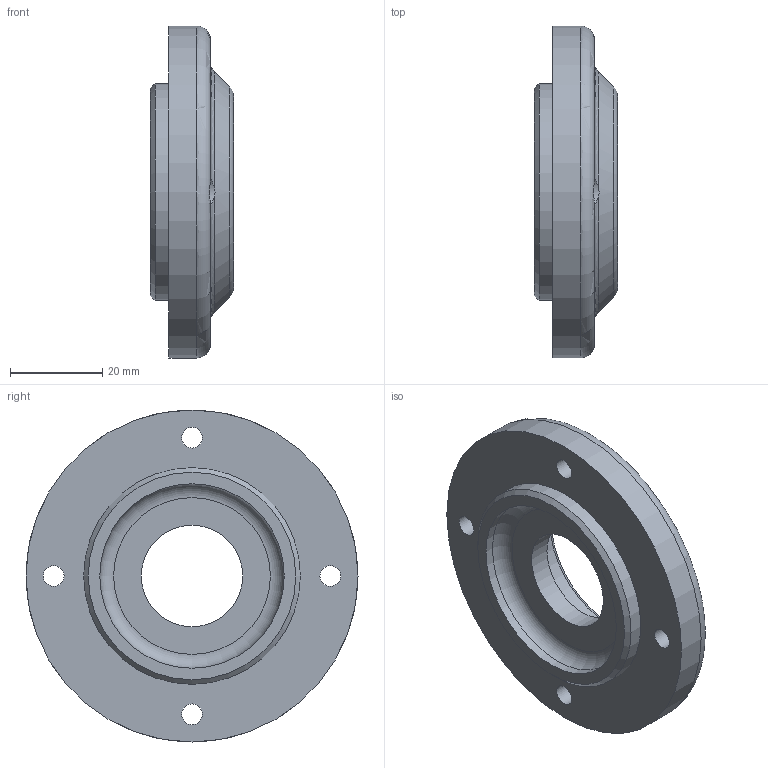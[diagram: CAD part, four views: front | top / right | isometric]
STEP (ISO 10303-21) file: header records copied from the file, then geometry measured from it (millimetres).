
FILE_DESCRIPTION(/* description */ (''),/* implementation_level */ '2;1');
FILE_NAME(/* name */ '',/* time_stamp */ '2026-01-09T11:05:19+09:00',/* author */ ('jhkim'),/* organization */ (''),/* preprocessor_version */ 'ST-DEVELOPER v20.1',/* originating_system */ 'Autodesk Inventor 2026',/* authorisation */ '');
FILE_SCHEMA (('AUTOMOTIVE_DESIGN { 1 0 10303 214 3 1 1 }'));
Length unit declared in the file: millimetre
Products named in the file (1): 하우징 커버
Bounding box: 18 x 72 x 72 mm (x, y, z)
Volume: 35524.1 mm3; surface area: 12140 mm2
Topology: 1 solids, 1 shells, 37 faces, 95 edges, 63 vertices
Faces by surface type: plane 13, cylinder 13, torus 8, cone 3
Full cylindrical faces by diameter (mm): 4.5 x4, 8 x4, 22 x1, 35 x1, 40 x1, 47 x1, 72 x1
Entity records: 1321 total; most frequent: CARTESIAN_POINT 328, DIRECTION 214, ORIENTED_EDGE 190, AXIS2_PLACEMENT_3D 99, EDGE_CURVE 95, VERTEX_POINT 63, CIRCLE 61, EDGE_LOOP 50
